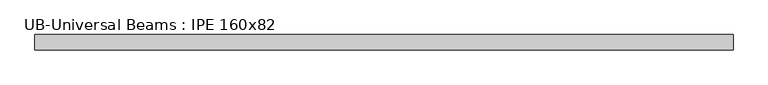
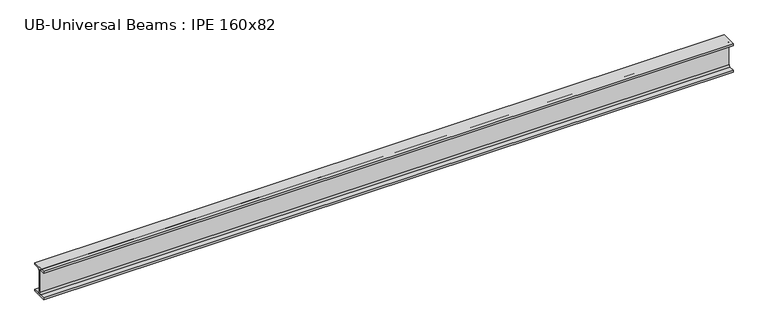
"""IFC4 building model written with IfcOpenShell, lengths in millimetres: beam geometry, UB-Universal Beams : IPE 160x82."""

from ifc_helpers import new_model, si_unit, point, frame, frame_2d, origin, place, context, project, spatial, polyline, circle_curve, trimmed, segment, composite_curve, outline, extrude, source, transform, mapped, element, save


def ub_universal_beams_ipe_160x82_eda7b881(model_context):
    return source(origin(), model_context, "Body", "SweptSolid", [
        extrude(outline(composite_curve([segment(polyline([(41.0, -69.8), (41.0, -80.0), (-41.0, -80.0), (-41.0, -69.8), (-11.9, -69.8)]), True, "CONTINUOUS"), segment(trimmed(circle_curve(frame_2d((-11.9, -60.9)), 8.9), [point((-11.9, -69.8))], [point((-3.0, -60.9))], True, "CARTESIAN"), True, "CONTINUOUS"), segment(polyline([(-3.0, -60.9), (-3.0, 60.9)]), True, "CONTINUOUS"), segment(trimmed(circle_curve(frame_2d((-11.9, 60.9)), 8.9), [point((-3.0, 60.9))], [point((-11.9, 69.8))], True, "CARTESIAN"), True, "CONTINUOUS"), segment(polyline([(-11.9, 69.8), (-41.0, 69.8), (-41.0, 80.0), (41.0, 80.0), (41.0, 69.8), (11.9, 69.8)]), True, "CONTINUOUS"), segment(trimmed(circle_curve(frame_2d((11.9, 60.9)), 8.9), [point((11.9, 69.8))], [point((3.0, 60.9))], True, "CARTESIAN"), True, "CONTINUOUS"), segment(polyline([(3.0, 60.9), (3.0, -60.9)]), True, "CONTINUOUS"), segment(trimmed(circle_curve(frame_2d((11.9, -60.9)), 8.9), [point((3.0, -60.9))], [point((11.9, -69.8))], True, "CARTESIAN"), True, "CONTINUOUS"), segment(polyline([(11.9, -69.8), (41.0, -69.8)]), True, "CONTINUOUS")], self_intersect=False)), frame((-1842.7, 0.0, 0.0), z_axis=(1.0, 0.0, 0.0), x_axis=(0.0, 1.0, 0.0)), (0.0, 0.0, 1.0), 3685.4),
    ])


if __name__ == "__main__":
    model = new_model("IFC4")
    model_context = context("Model", 3, world=origin())
    ifc_project = project(units=[si_unit("LENGTHUNIT", "METRE", prefix="MILLI")], contexts=[model_context])
    site = spatial("IfcSite", under=ifc_project)
    building = spatial("IfcBuilding", under=site)
    placement = place(None, origin())
    ub_universal_beams_ipe_160x82_shape = ub_universal_beams_ipe_160x82_eda7b881(model_context)
    element("IfcBeam", 1, ObjectType="UB-Universal Beams : IPE 160x82", at=placement, inside=building, context=model_context, shape_type="MappedRepresentation", body=[
        mapped(ub_universal_beams_ipe_160x82_shape, transform((0.0, 0.0, 0.0), x_axis=(1.0, 0.0, 0.0), y_axis=(0.0, 1.0, 0.0), z_axis=(0.0, 0.0, 1.0))),
    ])
    save(model, "model.ifc")
